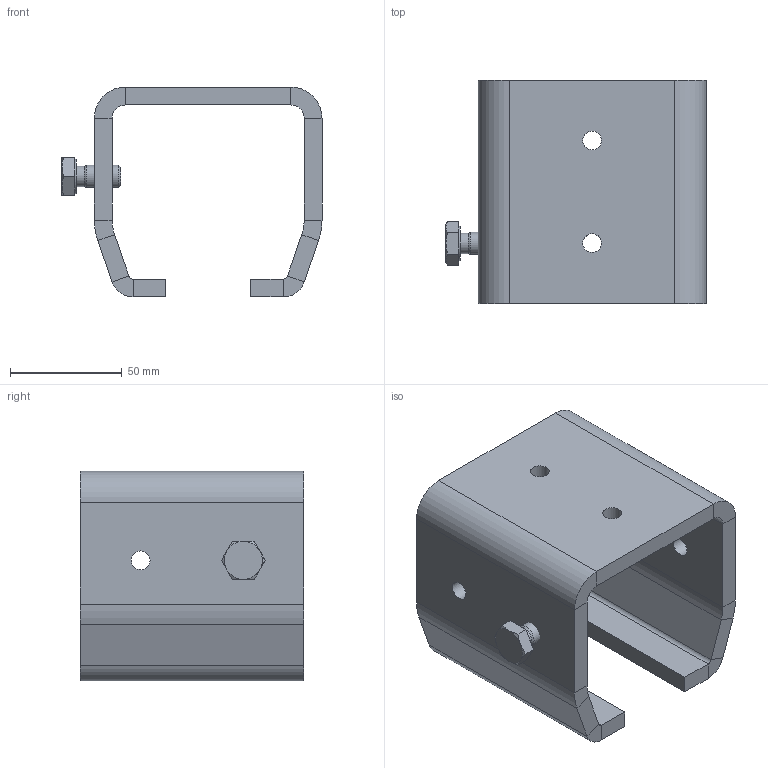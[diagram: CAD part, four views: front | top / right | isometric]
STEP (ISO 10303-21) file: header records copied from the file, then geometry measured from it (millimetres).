
FILE_DESCRIPTION(/* description */ ('Muffe Nr.4_kurz'),/* implementation_level */ '2;1');
FILE_NAME(/* name */ 'Q:\sge-ma\Produktmanagement-STB\STB\Workspace\stp\010335242.stp',/* time_stamp */ '2016-07-12T13:00:17+02:00',/* author */ ('avschreier'),/* organization */ (''),/* preprocessor_version */ 'ST-DEVELOPER v16.1',/* originating_system */ 'Autodesk Inventor 2016',/* authorisation */ '');
FILE_SCHEMA (('AUTOMOTIVE_DESIGN { 1 0 10303 214 3 1 1 }'));
Length unit declared in the file: millimetre
Products named in the file (3): 337000133; DIN_EN_ISO_4017-M10x20_en; 010335242
Assembly tree (2 placements, depth 2):
  010335242
    337000133
    DIN_EN_ISO_4017-M10x20_en
Bounding box: 116.48 x 100 x 94 mm (x, y, z)
Volume: 237121.9 mm3; surface area: 67588.3 mm2
Topology: 2 solids, 2 shells, 81 faces, 169 edges, 94 vertices
Faces by surface type: plane 52, cylinder 21, cone 8
Full cylindrical faces by diameter (mm): 8.376 x1, 8.4 x5, 9.188 x1, 10 x1, 15.4 x1
Entity records: 2104 total; most frequent: DIRECTION 366, CARTESIAN_POINT 360, ORIENTED_EDGE 314, EDGE_CURVE 157, AXIS2_PLACEMENT_3D 135, EDGE_LOOP 106, LINE 96, VECTOR 96
